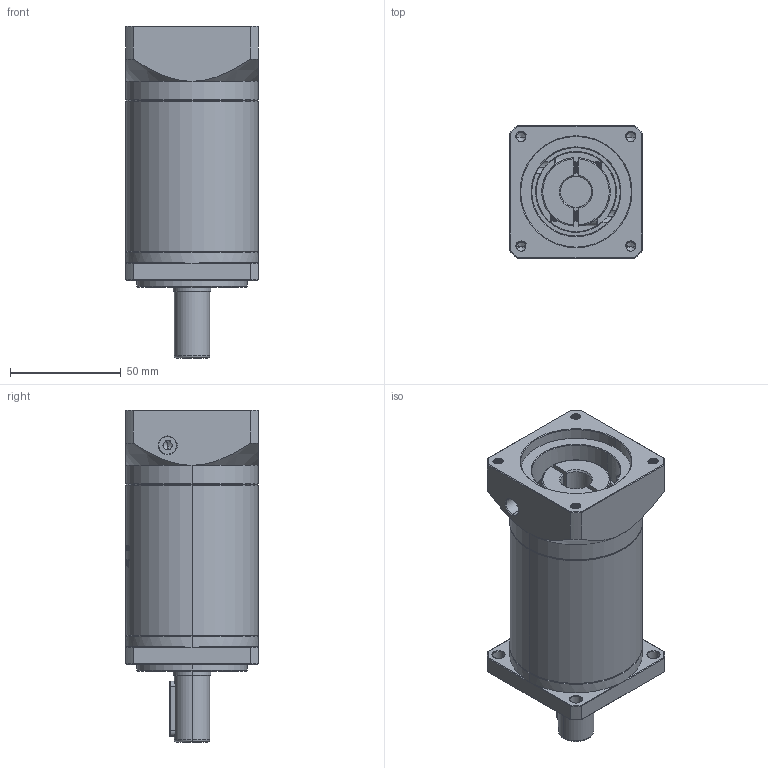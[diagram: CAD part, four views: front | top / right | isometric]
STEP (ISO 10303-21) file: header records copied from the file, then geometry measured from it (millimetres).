
FILE_DESCRIPTION (( 'STEP AP214' ), '1' );
FILE_NAME ('ZF060-D16-L3-P2-14-50-70-M5.step', '2023-08-16T04:28:37', ( '' ), ( '' ), 'SwSTEP 2.0', 'SolidWorks 2016', '' );
FILE_SCHEMA (( 'AUTOMOTIVE_DESIGN' ));
Length unit declared in the file: millimetre
Products named in the file (1): ZF060-D16-L3-P2-14-50-70-M5
Bounding box: 60 x 60 x 150 mm (x, y, z)
Volume: 320945 mm3; surface area: 50873.8 mm2
Topology: 6 solids, 6 shells, 1766 faces, 4782 edges, 3099 vertices
Faces by surface type: plane 794, cylinder 364, bspline 354, cone 236, torus 18
Entity records: 101507 total; most frequent: CARTESIAN_POINT 41916, ORIENTED_EDGE 9536, DIRECTION 6824, EDGE_CURVE 4768, VERTEX_POINT 3099, LINE 2428, VECTOR 2428, AXIS2_PLACEMENT_3D 2198
